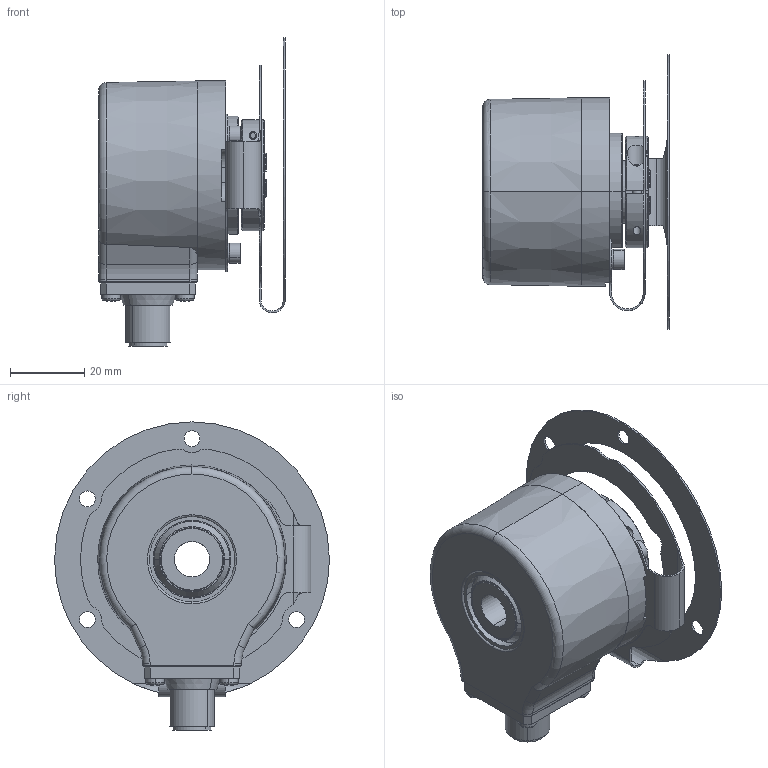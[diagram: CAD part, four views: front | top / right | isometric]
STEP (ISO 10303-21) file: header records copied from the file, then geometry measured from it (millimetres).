
FILE_DESCRIPTION (( 'STEP AP203' ), '1' );
FILE_NAME ('8.5020.84X2.XXXX.STEP', '2017-03-20T06:31:58', ( '' ), ( '' ), 'SwSTEP 2.0', 'SolidWorks 2017', '' );
FILE_SCHEMA (( 'CONFIG_CONTROL_DESIGN' ));
Length unit declared in the file: millimetre
Products named in the file (1): 8.5020.84X2.XXXX
Bounding box: 50.2 x 74 x 83 mm (x, y, z)
Volume: 45964.1 mm3; surface area: 45412.7 mm2
Topology: 20 solids, 21 shells, 834 faces, 2091 edges, 1300 vertices
Faces by surface type: cylinder 321, plane 249, cone 125, torus 65, sphere 64, bspline 10
Entity records: 26036 total; most frequent: CARTESIAN_POINT 6286, DIRECTION 4381, ORIENTED_EDGE 3902, EDGE_CURVE 1951, AXIS2_PLACEMENT_3D 1801, VERTEX_POINT 1230, EDGE_LOOP 993, CIRCLE 976
